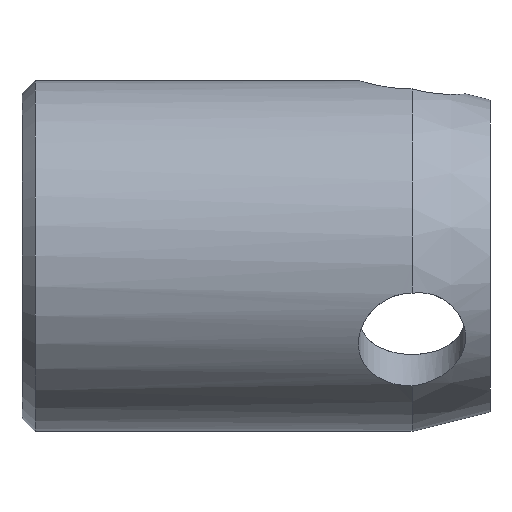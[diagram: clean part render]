
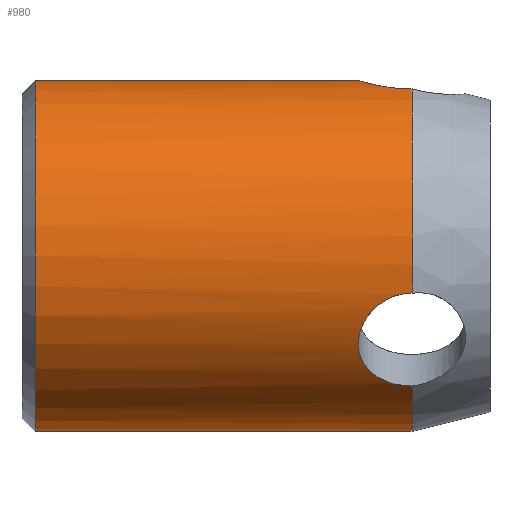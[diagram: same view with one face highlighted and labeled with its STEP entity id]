
A CAD part, front view. The second image highlights one B-rep face of the part: STEP entity #980.
In plain terms, the highlighted cylindrical face has radius 9 mm (diameter 18 mm), a partial arc.
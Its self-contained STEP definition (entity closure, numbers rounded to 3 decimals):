
#3 = CARTESIAN_POINT ( 'NONE',  ( -6.196, -1.693, 8.843 ) ) ;
#9 = VERTEX_POINT ( 'NONE', #941 ) ;
#16 = CARTESIAN_POINT ( 'NONE',  ( -4.893, -8.764, -2.049 ) ) ;
#26 = CARTESIAN_POINT ( 'NONE',  ( -4., -8.796, -1.903 ) ) ;
#29 = CARTESIAN_POINT ( 'NONE',  ( 21.562, 0., 9. ) ) ;
#34 = ORIENTED_EDGE ( 'NONE', *, *, #484, .T. ) ;
#39 = CYLINDRICAL_SURFACE ( 'NONE', #542, 9. ) ;
#46 = EDGE_CURVE ( 'NONE', #9, #696, #517, .T. ) ;
#52 = CARTESIAN_POINT ( 'NONE',  ( -6.75, 0., 9. ) ) ;
#94 = CARTESIAN_POINT ( 'NONE',  ( -5.678, -2.186, 8.731 ) ) ;
#130 = ORIENTED_EDGE ( 'NONE', *, *, #665, .F. ) ;
#133 = CARTESIAN_POINT ( 'NONE',  ( -4.183, -6.046, -6.666 ) ) ;
#150 = AXIS2_PLACEMENT_3D ( 'NONE', #452, #302, #627 ) ;
#156 = DIRECTION ( 'NONE',  ( 0., 0., 1. ) ) ;
#162 = CARTESIAN_POINT ( 'NONE',  ( -6.75, -0.183, 9. ) ) ;
#170 = CARTESIAN_POINT ( 'NONE',  ( -4.183, -2.75, 8.57 ) ) ;
#172 = EDGE_CURVE ( 'NONE', #496, #458, #896, .T. ) ;
#181 = CARTESIAN_POINT ( 'NONE',  ( -6.732, -0.363, 8.994 ) ) ;
#184 = CARTESIAN_POINT ( 'NONE',  ( -6.385, -8.393, -3.252 ) ) ;
#192 = CARTESIAN_POINT ( 'NONE',  ( -6.608, -8.202, -3.708 ) ) ;
#198 = CARTESIAN_POINT ( 'NONE',  ( -4.89, -6.156, -6.566 ) ) ;
#221 = ORIENTED_EDGE ( 'NONE', *, *, #981, .T. ) ;
#230 = ORIENTED_EDGE ( 'NONE', *, *, #1014, .T. ) ;
#231 = CARTESIAN_POINT ( 'NONE',  ( -5.38, -6.323, -6.405 ) ) ;
#235 = CARTESIAN_POINT ( 'NONE',  ( 21.562, 0., -9. ) ) ;
#256 = DIRECTION ( 'NONE',  ( 0., 0., -1. ) ) ;
#263 = CARTESIAN_POINT ( 'NONE',  ( -5.222, -2.47, 8.655 ) ) ;
#271 = LINE ( 'NONE', #29, #753 ) ;
#273 = FACE_OUTER_BOUND ( 'NONE', #936, .T. ) ;
#302 = DIRECTION ( 'NONE',  ( 1., 0., 0. ) ) ;
#345 = CARTESIAN_POINT ( 'NONE',  ( -4.719, -8.776, -1.995 ) ) ;
#347 = CARTESIAN_POINT ( 'NONE',  ( -6.607, -0.893, 8.957 ) ) ;
#358 = CARTESIAN_POINT ( 'NONE',  ( -6.47, -8.335, -3.4 ) ) ;
#403 = B_SPLINE_CURVE_WITH_KNOTS ( 'NONE', 3,
 ( #591, #170, #661, #991, #907, #263, #503, #94, #911, #3, #428, #347, #669, #181, #162, #513 ),
 .UNSPECIFIED., .F., .F.,
 ( 4, 2, 2, 2, 2, 2, 2, 4 ),
 ( 0., 0.001, 0.001, 0.002, 0.002, 0.003, 0.004, 0.004 ),
 .UNSPECIFIED. ) ;
#408 = CARTESIAN_POINT ( 'NONE',  ( -4., -2.75, 8.57 ) ) ;
#418 = ORIENTED_EDGE ( 'NONE', *, *, #46, .T. ) ;
#425 = CARTESIAN_POINT ( 'NONE',  ( -6.661, -8.129, -3.867 ) ) ;
#428 = CARTESIAN_POINT ( 'NONE',  ( -6.4, -1.389, 8.898 ) ) ;
#438 = CARTESIAN_POINT ( 'NONE',  ( -6.75, -7.794, -4.5 ) ) ;
#445 = B_SPLINE_CURVE_WITH_KNOTS ( 'NONE', 3,
 ( #438, #1020, #755, #425, #192, #358, #184, #750, #525, #844, #913, #16, #345, #667, #933, #26 ),
 .UNSPECIFIED., .F., .F.,
 ( 4, 2, 2, 2, 2, 2, 2, 4 ),
 ( 0.004, 0.005, 0.005, 0.006, 0.006, 0.008, 0.008, 0.009 ),
 .UNSPECIFIED. ) ;
#452 = CARTESIAN_POINT ( 'NONE',  ( -4., 0., 0. ) ) ;
#453 = VECTOR ( 'NONE', #551, 1000. ) ;
#458 = VERTEX_POINT ( 'NONE', #903 ) ;
#472 = CARTESIAN_POINT ( 'NONE',  ( -6.607, -7.31, -5.252 ) ) ;
#484 = EDGE_CURVE ( 'NONE', #496, #677, #403, .T. ) ;
#487 = CARTESIAN_POINT ( 'NONE',  ( -6.4, -7.012, -5.652 ) ) ;
#496 = VERTEX_POINT ( 'NONE', #408 ) ;
#503 = CARTESIAN_POINT ( 'NONE',  ( -5.38, -2.386, 8.679 ) ) ;
#513 = CARTESIAN_POINT ( 'NONE',  ( -6.75, 0., 9. ) ) ;
#517 = B_SPLINE_CURVE_WITH_KNOTS ( 'NONE', 3,
 ( #862, #133, #840, #1017, #198, #527, #231, #876, #888, #569, #487, #472, #866, #794, #638, #800 ),
 .UNSPECIFIED., .F., .F.,
 ( 4, 2, 2, 2, 2, 2, 2, 4 ),
 ( 0., 0.001, 0.001, 0.002, 0.002, 0.003, 0.004, 0.004 ),
 .UNSPECIFIED. ) ;
#525 = CARTESIAN_POINT ( 'NONE',  ( -6.071, -8.543, -2.833 ) ) ;
#527 = CARTESIAN_POINT ( 'NONE',  ( -5.222, -6.26, -6.466 ) ) ;
#533 = CARTESIAN_POINT ( 'NONE',  ( 21.562, 0., 0. ) ) ;
#539 = CIRCLE ( 'NONE', #720, 9. ) ;
#542 = AXIS2_PLACEMENT_3D ( 'NONE', #533, #621, #695 ) ;
#551 = DIRECTION ( 'NONE',  ( 1., 0., 0. ) ) ;
#569 = CARTESIAN_POINT ( 'NONE',  ( -6.196, -6.812, -5.888 ) ) ;
#591 = CARTESIAN_POINT ( 'NONE',  ( -4., -2.75, 8.57 ) ) ;
#607 = CARTESIAN_POINT ( 'NONE',  ( -4., 0., -9. ) ) ;
#610 = VERTEX_POINT ( 'NONE', #763 ) ;
#621 = DIRECTION ( 'NONE',  ( 1., 0., 0. ) ) ;
#627 = DIRECTION ( 'NONE',  ( 0., 0., -1. ) ) ;
#638 = CARTESIAN_POINT ( 'NONE',  ( -6.75, -7.703, -4.658 ) ) ;
#654 = ORIENTED_EDGE ( 'NONE', *, *, #898, .F. ) ;
#656 = DIRECTION ( 'NONE',  ( 1., 0., 0. ) ) ;
#661 = CARTESIAN_POINT ( 'NONE',  ( -4.362, -2.732, 8.575 ) ) ;
#662 = ORIENTED_EDGE ( 'NONE', *, *, #725, .T. ) ;
#665 = EDGE_CURVE ( 'NONE', #610, #677, #271, .T. ) ;
#667 = CARTESIAN_POINT ( 'NONE',  ( -4.363, -8.793, -1.922 ) ) ;
#669 = CARTESIAN_POINT ( 'NONE',  ( -6.66, -0.719, 8.973 ) ) ;
#677 = VERTEX_POINT ( 'NONE', #52 ) ;
#695 = DIRECTION ( 'NONE',  ( 0., 0., -1. ) ) ;
#696 = VERTEX_POINT ( 'NONE', #701 ) ;
#701 = CARTESIAN_POINT ( 'NONE',  ( -6.75, -7.794, -4.5 ) ) ;
#720 = AXIS2_PLACEMENT_3D ( 'NONE', #732, #656, #256 ) ;
#725 = EDGE_CURVE ( 'NONE', #696, #458, #445, .T. ) ;
#732 = CARTESIAN_POINT ( 'NONE',  ( -4., 0., 0. ) ) ;
#750 = CARTESIAN_POINT ( 'NONE',  ( -6.186, -8.498, -2.968 ) ) ;
#753 = VECTOR ( 'NONE', #1012, 1000. ) ;
#755 = CARTESIAN_POINT ( 'NONE',  ( -6.732, -7.971, -4.184 ) ) ;
#756 = CARTESIAN_POINT ( 'NONE',  ( -23.325, 0., 0. ) ) ;
#762 = VERTEX_POINT ( 'NONE', #607 ) ;
#763 = CARTESIAN_POINT ( 'NONE',  ( -23.325, 0., 9. ) ) ;
#794 = CARTESIAN_POINT ( 'NONE',  ( -6.732, -7.608, -4.812 ) ) ;
#795 = CARTESIAN_POINT ( 'NONE',  ( -23.325, 0., -9. ) ) ;
#800 = CARTESIAN_POINT ( 'NONE',  ( -6.75, -7.794, -4.5 ) ) ;
#839 = DIRECTION ( 'NONE',  ( 1., 0., 0. ) ) ;
#840 = CARTESIAN_POINT ( 'NONE',  ( -4.362, -6.061, -6.654 ) ) ;
#844 = CARTESIAN_POINT ( 'NONE',  ( -5.693, -8.66, -2.464 ) ) ;
#860 = AXIS2_PLACEMENT_3D ( 'NONE', #756, #839, #156 ) ;
#862 = CARTESIAN_POINT ( 'NONE',  ( -4., -6.046, -6.666 ) ) ;
#866 = CARTESIAN_POINT ( 'NONE',  ( -6.66, -7.411, -5.109 ) ) ;
#876 = CARTESIAN_POINT ( 'NONE',  ( -5.678, -6.468, -6.259 ) ) ;
#888 = CARTESIAN_POINT ( 'NONE',  ( -5.818, -6.55, -6.173 ) ) ;
#896 = CIRCLE ( 'NONE', #150, 9. ) ;
#898 = EDGE_CURVE ( 'NONE', #9, #762, #539, .T. ) ;
#903 = CARTESIAN_POINT ( 'NONE',  ( -4., -8.796, -1.903 ) ) ;
#907 = CARTESIAN_POINT ( 'NONE',  ( -4.89, -2.608, 8.614 ) ) ;
#911 = CARTESIAN_POINT ( 'NONE',  ( -5.818, -2.071, 8.759 ) ) ;
#913 = CARTESIAN_POINT ( 'NONE',  ( -5.388, -8.713, -2.259 ) ) ;
#933 = CARTESIAN_POINT ( 'NONE',  ( -4.183, -8.796, -1.903 ) ) ;
#936 = EDGE_LOOP ( 'NONE', ( #130, #221, #230, #654, #418, #662, #948, #34 ) ) ;
#941 = CARTESIAN_POINT ( 'NONE',  ( -4., -6.046, -6.666 ) ) ;
#948 = ORIENTED_EDGE ( 'NONE', *, *, #172, .F. ) ;
#963 = CIRCLE ( 'NONE', #860, 9. ) ;
#969 = LINE ( 'NONE', #235, #453 ) ;
#980 = ADVANCED_FACE ( 'NONE', ( #273 ), #39, .T. ) ;
#981 = EDGE_CURVE ( 'NONE', #610, #1010, #963, .T. ) ;
#991 = CARTESIAN_POINT ( 'NONE',  ( -4.715, -2.662, 8.598 ) ) ;
#1010 = VERTEX_POINT ( 'NONE', #795 ) ;
#1012 = DIRECTION ( 'NONE',  ( 1., 0., 0. ) ) ;
#1014 = EDGE_CURVE ( 'NONE', #1010, #762, #969, .T. ) ;
#1017 = CARTESIAN_POINT ( 'NONE',  ( -4.715, -6.115, -6.604 ) ) ;
#1020 = CARTESIAN_POINT ( 'NONE',  ( -6.75, -7.886, -4.342 ) ) ;
